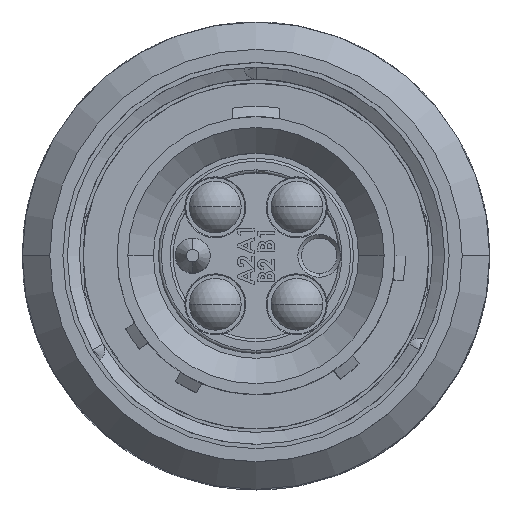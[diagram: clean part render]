
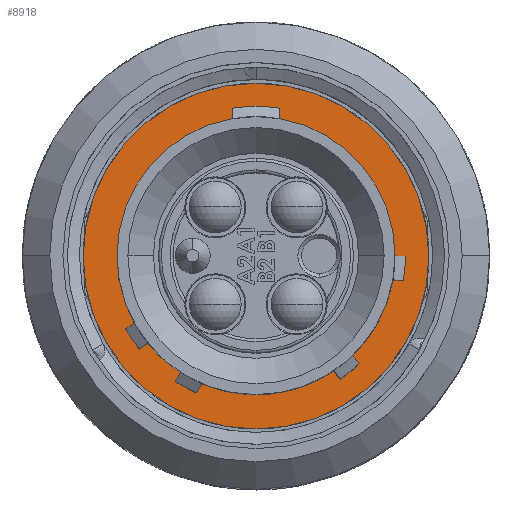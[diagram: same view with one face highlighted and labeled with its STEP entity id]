
A CAD part, top view. The second image highlights one B-rep face of the part: STEP entity #8918.
In plain terms, the highlighted planar face has unit normal (0, 0, 1).
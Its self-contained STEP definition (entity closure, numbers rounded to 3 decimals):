
#10 = DIRECTION ( 'NONE',  ( 1., 0., 0. ) ) ;
#229 = CARTESIAN_POINT ( 'NONE',  ( -8.877, 0., 9.703 ) ) ;
#338 = VERTEX_POINT ( 'NONE', #229 ) ;
#1291 = CARTESIAN_POINT ( 'NONE',  ( 0., 7.01, 9.703 ) ) ;
#1366 = DIRECTION ( 'NONE',  ( 0., 0., -1. ) ) ;
#1788 = DIRECTION ( 'NONE',  ( 1., 0., 0. ) ) ;
#2384 = CARTESIAN_POINT ( 'NONE',  ( 0., 0., 9.703 ) ) ;
#2970 = DIRECTION ( 'NONE',  ( 1., 0., 0. ) ) ;
#3610 = CIRCLE ( 'NONE', #14706, 7.01 ) ;
#3900 = AXIS2_PLACEMENT_3D ( 'NONE', #2384, #11672, #10 ) ;
#4209 = CARTESIAN_POINT ( 'NONE',  ( -7.01, 0., 9.703 ) ) ;
#5024 = FACE_BOUND ( 'NONE', #7866, .T. ) ;
#5414 = CIRCLE ( 'NONE', #10984, 7.01 ) ;
#5544 = CARTESIAN_POINT ( 'NONE',  ( 8.877, 0., 9.703 ) ) ;
#5570 = CIRCLE ( 'NONE', #3900, 8.877 ) ;
#5629 = ORIENTED_EDGE ( 'NONE', *, *, #14239, .T. ) ;
#6331 = CARTESIAN_POINT ( 'NONE',  ( 0., 0., 9.703 ) ) ;
#6477 = VERTEX_POINT ( 'NONE', #4209 ) ;
#6574 = PLANE ( 'NONE',  #8896 ) ;
#7354 = AXIS2_PLACEMENT_3D ( 'NONE', #11142, #14883, #2970 ) ;
#7866 = EDGE_LOOP ( 'NONE', ( #9688, #8642 ) ) ;
#8458 = CARTESIAN_POINT ( 'NONE',  ( 7.01, 0., 9.703 ) ) ;
#8642 = ORIENTED_EDGE ( 'NONE', *, *, #16468, .F. ) ;
#8896 = AXIS2_PLACEMENT_3D ( 'NONE', #1291, #1366, #15723 ) ;
#8918 = ADVANCED_FACE ( 'NONE', ( #5024, #13193 ), #6574, .F. ) ;
#9688 = ORIENTED_EDGE ( 'NONE', *, *, #10517, .F. ) ;
#9779 = CARTESIAN_POINT ( 'NONE',  ( 0., 0., 9.703 ) ) ;
#10517 = EDGE_CURVE ( 'NONE', #17004, #6477, #3610, .T. ) ;
#10790 = EDGE_CURVE ( 'NONE', #338, #17197, #5570, .T. ) ;
#10984 = AXIS2_PLACEMENT_3D ( 'NONE', #6331, #15895, #11886 ) ;
#11142 = CARTESIAN_POINT ( 'NONE',  ( 0., 0., 9.703 ) ) ;
#11672 = DIRECTION ( 'NONE',  ( 0., 0., 1. ) ) ;
#11886 = DIRECTION ( 'NONE',  ( 1., 0., 0. ) ) ;
#12920 = CIRCLE ( 'NONE', #7354, 8.877 ) ;
#13193 = FACE_OUTER_BOUND ( 'NONE', #14955, .T. ) ;
#13694 = DIRECTION ( 'NONE',  ( 0., 0., 1. ) ) ;
#14239 = EDGE_CURVE ( 'NONE', #17197, #338, #12920, .T. ) ;
#14706 = AXIS2_PLACEMENT_3D ( 'NONE', #9779, #13694, #1788 ) ;
#14883 = DIRECTION ( 'NONE',  ( 0., 0., 1. ) ) ;
#14955 = EDGE_LOOP ( 'NONE', ( #5629, #16326 ) ) ;
#15723 = DIRECTION ( 'NONE',  ( -1., 0., 0. ) ) ;
#15895 = DIRECTION ( 'NONE',  ( 0., 0., 1. ) ) ;
#16326 = ORIENTED_EDGE ( 'NONE', *, *, #10790, .T. ) ;
#16468 = EDGE_CURVE ( 'NONE', #6477, #17004, #5414, .T. ) ;
#17004 = VERTEX_POINT ( 'NONE', #8458 ) ;
#17197 = VERTEX_POINT ( 'NONE', #5544 ) ;
